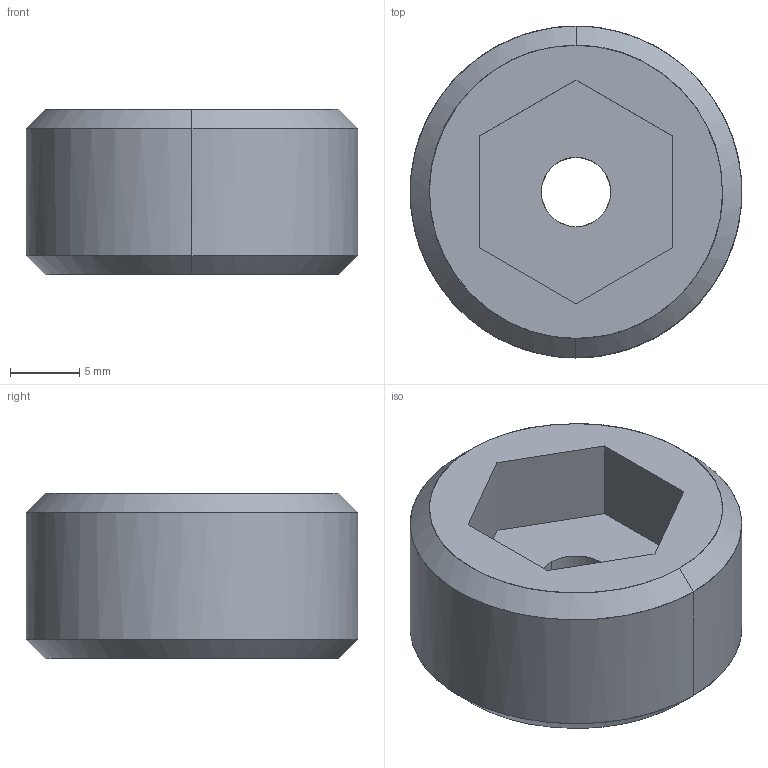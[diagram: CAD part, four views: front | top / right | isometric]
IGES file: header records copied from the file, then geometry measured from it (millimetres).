
Global section: file name: E:\UnigraphicsGraphicData\MISUMI_PRESS-PARTS\IGES\3d_mswh24_00463_r00.igs; native system: NX V5.0; preprocessor: UGS NX IGES V5.0; author: MISUMI; date: 20110105.161524; units: millimetre
Bounding box: 23.97 x 24 x 12 mm (x, y, z)
Surface area: 2028.9 mm2 (no closed solid volume)
Topology: 0 solids, 0 shells, 17 faces, 100 edges, 100 vertices
Faces by surface type: bspline 17
